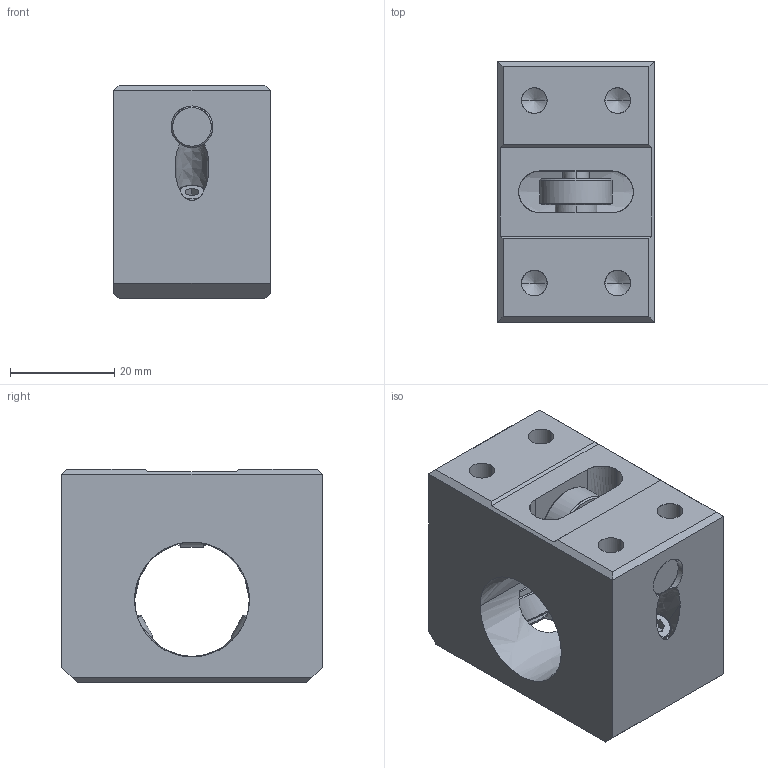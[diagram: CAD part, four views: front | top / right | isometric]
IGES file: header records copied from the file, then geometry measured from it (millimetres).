
Global section: file name: No Iges File Name specified; native system: AutoDesk Inventor R10; preprocessor: AutoDesk Inventor Iges Exporter R10; author: No Author specified; organization: No Organization specified; date: 20101222.161258; units: millimetre
Bounding box: 30 x 50 x 41 mm (x, y, z)
Surface area: 14873.4 mm2 (no closed solid volume)
Topology: 0 solids, 0 shells, 150 faces, 1108 edges, 1094 vertices
Faces by surface type: bspline 150
